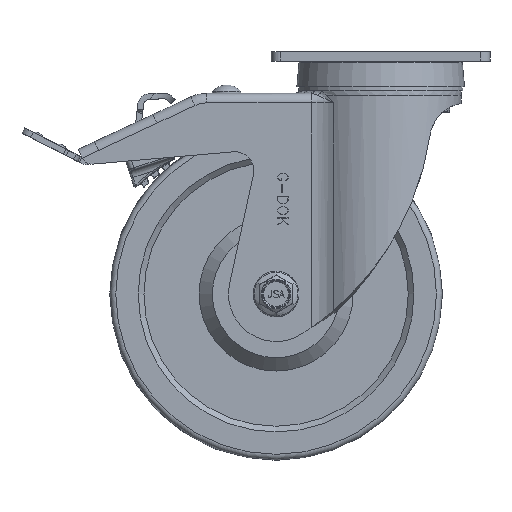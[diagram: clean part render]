
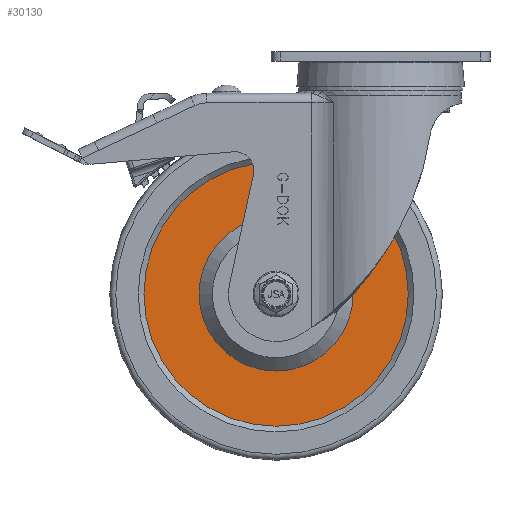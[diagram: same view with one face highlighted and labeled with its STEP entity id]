
A CAD part, front view. The second image highlights one B-rep face of the part: STEP entity #30130.
In plain terms, the highlighted planar face has unit normal (0, -1, 0).
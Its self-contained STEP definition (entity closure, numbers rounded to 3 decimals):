
#1358=FACE_BOUND('',#5642,.T.);
#2257=PLANE('',#32521);
#3890=FACE_OUTER_BOUND('',#5641,.T.);
#5641=EDGE_LOOP('',(#27999,#28000));
#5642=EDGE_LOOP('',(#28001,#28002));
#11948=CIRCLE('',#32519,69.5);
#11949=CIRCLE('',#32520,69.5);
#11950=CIRCLE('',#32522,40.5);
#11951=CIRCLE('',#32523,40.5);
#14811=VERTEX_POINT('',#58245);
#14812=VERTEX_POINT('',#58246);
#14813=VERTEX_POINT('',#58251);
#14814=VERTEX_POINT('',#58252);
#19229=EDGE_CURVE('',#14811,#14812,#11948,.T.);
#19231=EDGE_CURVE('',#14812,#14811,#11949,.T.);
#19232=EDGE_CURVE('',#14813,#14814,#11950,.T.);
#19233=EDGE_CURVE('',#14814,#14813,#11951,.T.);
#27999=ORIENTED_EDGE('',*,*,#19229,.F.);
#28000=ORIENTED_EDGE('',*,*,#19231,.F.);
#28001=ORIENTED_EDGE('',*,*,#19232,.T.);
#28002=ORIENTED_EDGE('',*,*,#19233,.T.);
#30130=ADVANCED_FACE('',(#3890,#1358),#2257,.T.);
#32519=AXIS2_PLACEMENT_3D('',#58247,#39965,#39966);
#32520=AXIS2_PLACEMENT_3D('',#58249,#39968,#39969);
#32521=AXIS2_PLACEMENT_3D('',#58250,#39970,#39971);
#32522=AXIS2_PLACEMENT_3D('',#58253,#39972,#39973);
#32523=AXIS2_PLACEMENT_3D('',#58254,#39974,#39975);
#39965=DIRECTION('center_axis',(0.,1.,0.));
#39966=DIRECTION('ref_axis',(0.,0.,
1.));
#39968=DIRECTION('center_axis',(0.,1.,0.));
#39969=DIRECTION('ref_axis',(0.,0.,
1.));
#39970=DIRECTION('center_axis',(0.,-1.,0.));
#39971=DIRECTION('ref_axis',(0.,0.,
-1.));
#39972=DIRECTION('center_axis',(0.,1.,0.));
#39973=DIRECTION('ref_axis',(0.,0.,
1.));
#39974=DIRECTION('center_axis',(0.,1.,0.));
#39975=DIRECTION('ref_axis',(0.,0.,
1.));
#58245=CARTESIAN_POINT('',(-55.,-17.,-58.));
#58246=CARTESIAN_POINT('',(-55.,-17.,-197.));
#58247=CARTESIAN_POINT('Origin',(-55.,-17.,-127.5));
#58249=CARTESIAN_POINT('Origin',(-55.,-17.,-127.5));
#58250=CARTESIAN_POINT('Origin',(-55.,-17.,-58.));
#58251=CARTESIAN_POINT('',(-55.,-17.,-87.));
#58252=CARTESIAN_POINT('',(-55.,-17.,-168.));
#58253=CARTESIAN_POINT('Origin',(-55.,-17.,-127.5));
#58254=CARTESIAN_POINT('Origin',(-55.,-17.,-127.5));
